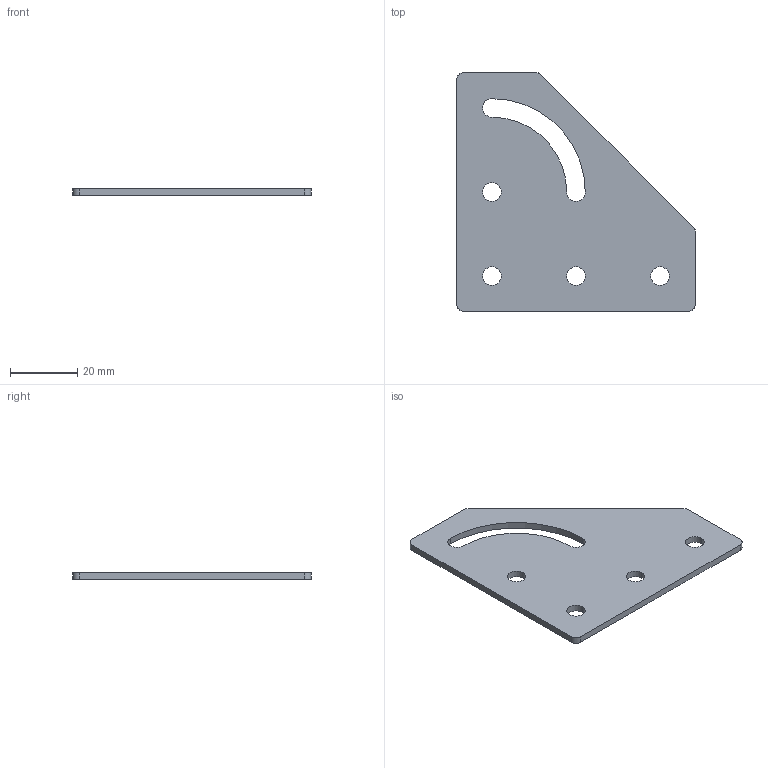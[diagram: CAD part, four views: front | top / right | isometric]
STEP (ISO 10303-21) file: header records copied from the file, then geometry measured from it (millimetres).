
FILE_DESCRIPTION (( 'STEP AP214' ), '1' );
FILE_NAME ('deg90s25.STEP', '2021-11-08T10:32:14', ( 'Home' ), ( '' ), 'SwSTEP 2.0', 'SolidWorks 2020', '' );
FILE_SCHEMA (( 'AUTOMOTIVE_DESIGN' ));
Length unit declared in the file: centimetre
Products named in the file (1): deg90s25
Bounding box: 71 x 71 x 2 mm (x, y, z)
Volume: 7236.7 mm3; surface area: 8074.5 mm2
Topology: 1 solids, 1 shells, 24 faces, 66 edges, 44 vertices
Faces by surface type: cylinder 17, plane 7
Entity records: 838 total; most frequent: DIRECTION 150, CARTESIAN_POINT 135, ORIENTED_EDGE 132, EDGE_CURVE 66, AXIS2_PLACEMENT_3D 59, VERTEX_POINT 44, CIRCLE 34, EDGE_LOOP 34
